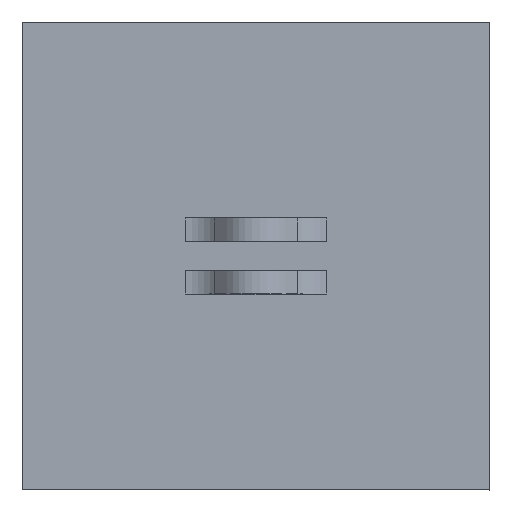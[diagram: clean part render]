
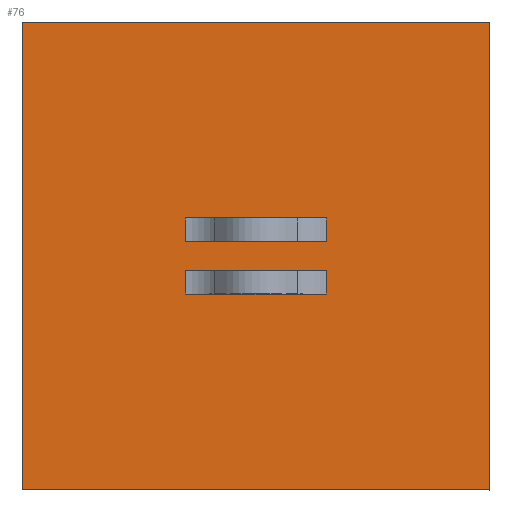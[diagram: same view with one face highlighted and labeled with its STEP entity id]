
A CAD part, top view. The second image highlights one B-rep face of the part: STEP entity #76.
In plain terms, the highlighted planar face has unit normal (0, 0, 1).
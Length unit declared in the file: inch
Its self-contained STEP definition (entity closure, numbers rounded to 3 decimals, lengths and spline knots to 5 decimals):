
#76=ADVANCED_FACE('',(#112,#113,#114),#115,.T.);
#112=FACE_OUTER_BOUND('',#184,.T.);
#113=FACE_BOUND('',#185,.T.);
#114=FACE_BOUND('',#186,.T.);
#115=PLANE('',#187);
#184=EDGE_LOOP('',(#261,#262,#263,#264));
#185=EDGE_LOOP('',(#265,#266,#267,#268));
#186=EDGE_LOOP('',(#269,#270,#271,#272));
#187=AXIS2_PLACEMENT_3D('',#273,#274,#275);
#261=ORIENTED_EDGE('',*,*,#542,.T.);
#262=ORIENTED_EDGE('',*,*,#544,.T.);
#263=ORIENTED_EDGE('',*,*,#545,.T.);
#264=ORIENTED_EDGE('',*,*,#546,.T.);
#265=ORIENTED_EDGE('',*,*,#547,.F.);
#266=ORIENTED_EDGE('',*,*,#548,.F.);
#267=ORIENTED_EDGE('',*,*,#549,.T.);
#268=ORIENTED_EDGE('',*,*,#550,.T.);
#269=ORIENTED_EDGE('',*,*,#551,.T.);
#270=ORIENTED_EDGE('',*,*,#552,.F.);
#271=ORIENTED_EDGE('',*,*,#553,.F.);
#272=ORIENTED_EDGE('',*,*,#554,.F.);
#273=CARTESIAN_POINT('',(16.75755,5.79187,0.025));
#274=DIRECTION('',(0.,0.,1.0));
#275=DIRECTION('',(-1.0,0.,0.));
#542=EDGE_CURVE('',#637,#635,#638,.F.);
#544=EDGE_CURVE('',#635,#640,#641,.T.);
#545=EDGE_CURVE('',#640,#642,#643,.T.);
#546=EDGE_CURVE('',#642,#637,#644,.T.);
#547=EDGE_CURVE('',#645,#646,#647,.T.);
#548=EDGE_CURVE('',#648,#645,#649,.T.);
#549=EDGE_CURVE('',#648,#650,#651,.T.);
#550=EDGE_CURVE('',#650,#646,#652,.T.);
#551=EDGE_CURVE('',#653,#654,#655,.T.);
#552=EDGE_CURVE('',#656,#654,#657,.T.);
#553=EDGE_CURVE('',#658,#656,#659,.T.);
#554=EDGE_CURVE('',#653,#658,#660,.T.);
#635=VERTEX_POINT('',#784);
#637=VERTEX_POINT('',#787);
#638=LINE('',#788,#789);
#640=VERTEX_POINT('',#792);
#641=LINE('',#793,#794);
#642=VERTEX_POINT('',#795);
#643=LINE('',#796,#797);
#644=LINE('',#798,#799);
#645=VERTEX_POINT('',#800);
#646=VERTEX_POINT('',#801);
#647=LINE('',#802,#803);
#648=VERTEX_POINT('',#804);
#649=LINE('',#805,#806);
#650=VERTEX_POINT('',#807);
#651=LINE('',#808,#809);
#652=LINE('',#810,#811);
#653=VERTEX_POINT('',#812);
#654=VERTEX_POINT('',#813);
#655=LINE('',#814,#815);
#656=VERTEX_POINT('',#816);
#657=LINE('',#817,#818);
#658=VERTEX_POINT('',#819);
#659=LINE('',#820,#821);
#660=LINE('',#822,#823);
#784=CARTESIAN_POINT('',(19.90955,3.80705,0.025));
#787=CARTESIAN_POINT('',(19.90955,5.80705,0.025));
#788=CARTESIAN_POINT('',(19.90955,3505.41074,0.025));
#789=VECTOR('',#998,1.);
#792=CARTESIAN_POINT('',(21.90955,3.80705,0.025));
#793=CARTESIAN_POINT('',(13664.76383,3.80705,0.025));
#794=VECTOR('',#1000,1.);
#795=CARTESIAN_POINT('',(21.90955,5.80705,0.025));
#796=CARTESIAN_POINT('',(21.90955,21761.36513,0.025));
#797=VECTOR('',#1001,1.);
#798=CARTESIAN_POINT('',(31661.68711,5.80705,0.025));
#799=VECTOR('',#1002,1.);
#800=CARTESIAN_POINT('',(21.20955,4.86955,0.025));
#801=CARTESIAN_POINT('',(21.20955,4.96955,0.025));
#802=CARTESIAN_POINT('',(21.20955,4.86955,0.025));
#803=VECTOR('',#1003,0.1);
#804=CARTESIAN_POINT('',(20.60955,4.86955,0.025));
#805=CARTESIAN_POINT('',(20.60955,4.86955,0.025));
#806=VECTOR('',#1004,0.6);
#807=CARTESIAN_POINT('',(20.60955,4.96955,0.025));
#808=CARTESIAN_POINT('',(20.60955,4.86955,0.025));
#809=VECTOR('',#1005,0.1);
#810=CARTESIAN_POINT('',(20.60955,4.96955,0.025));
#811=VECTOR('',#1006,0.6);
#812=CARTESIAN_POINT('',(20.60955,4.64455,0.025));
#813=CARTESIAN_POINT('',(20.60955,4.74455,0.025));
#814=CARTESIAN_POINT('',(20.60955,4.64455,0.025));
#815=VECTOR('',#1007,0.1);
#816=CARTESIAN_POINT('',(21.20955,4.74455,0.025));
#817=CARTESIAN_POINT('',(21.20955,4.74455,0.025));
#818=VECTOR('',#1008,0.6);
#819=CARTESIAN_POINT('',(21.20955,4.64455,0.025));
#820=CARTESIAN_POINT('',(21.20955,4.64455,0.025));
#821=VECTOR('',#1009,0.1);
#822=CARTESIAN_POINT('',(20.60955,4.64455,0.025));
#823=VECTOR('',#1010,0.6);
#998=DIRECTION('',(0.,1.0,0.));
#1000=DIRECTION('',(1.0,0.,0.));
#1001=DIRECTION('',(0.,1.0,0.));
#1002=DIRECTION('',(-1.0,0.,0.));
#1003=DIRECTION('',(0.,1.0,0.));
#1004=DIRECTION('',(1.0,0.,0.));
#1005=DIRECTION('',(0.,1.0,0.));
#1006=DIRECTION('',(1.0,0.,0.));
#1007=DIRECTION('',(0.,1.0,0.));
#1008=DIRECTION('',(-1.0,0.,0.));
#1009=DIRECTION('',(0.,1.0,0.));
#1010=DIRECTION('',(1.0,0.,0.));
